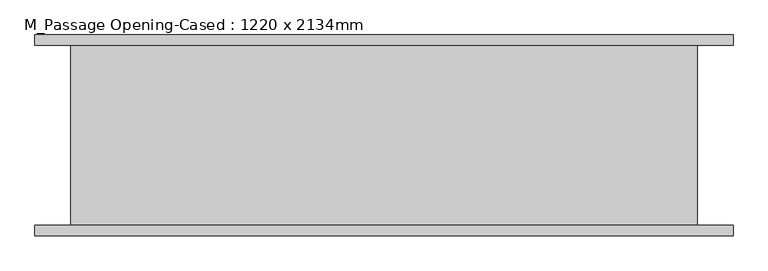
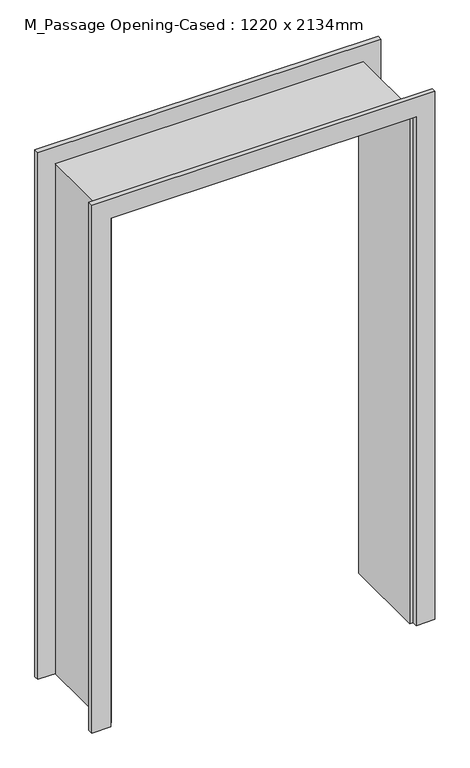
"""IFC4 building model written with IfcOpenShell, lengths in millimetres: proxy geometry, M_Passage Opening-Cased : 1220 x 2134mm."""

from ifc_helpers import new_model, si_unit, frame, origin, place, context, project, spatial, polyline, outline, extrude, faceted_brep, source, transform, mapped, element, save


def m_passage_opening_cased_1220_x_2134mm_b92f2863(model_context):
    return source(origin(), model_context, "Body", "SolidModel", [
        extrude(outline(polyline([(0.0, -611.8386567), (2127.65, -611.8386567), (2127.65, 595.4613433), (0.0, 595.4613433), (0.0, 670.4613433), (2202.65, 670.4613433), (2202.65, -686.8386567), (0.0, -686.8386567), (0.0, -611.8386567)])), frame((0.0, 175.0, 0.0), z_axis=(0.0, 1.0, 0.0), x_axis=(0.0, 0.0, 1.0)), (0.0, 0.0, 1.0), 20.0),
        extrude(outline(polyline([(0.0, 670.4613433), (2208.05, 670.4613433), (2208.05, -686.8386567), (0.0, -686.8386567), (0.0, -611.8386567), (2127.65, -611.8386567), (2127.65, 595.4613433), (0.0, 595.4613433), (0.0, 670.4613433)])), frame((0.0, -195.0, 0.0), z_axis=(0.0, 1.0, 0.0), x_axis=(0.0, 0.0, 1.0)), (0.0, 0.0, 1.0), 20.0),
        faceted_brep([(581.8113433, -175.0, 0.0), (581.8113433, 175.0, 0.0), (600.8613433, 175.0, 0.0), (600.8613433, -175.0, 0.0), (600.8613433, -175.0, 2133.05), (581.8113433, -175.0, 2114.0), (600.8613433, 175.0, 2133.05), (581.8113433, 175.0, 2114.0), (-617.2386567, -175.0, 2133.05), (-598.1886567, -175.0, 2114.0), (-617.2386567, 175.0, 2133.05), (-598.1886567, 175.0, 2114.0), (-598.1886567, -175.0, 0.0), (-617.2386567, -175.0, 0.0), (-617.2386567, 175.0, 0.0), (-598.1886567, 175.0, 0.0)], [[[0, 1, 2, 3]], [[3, 4, 5, 0]], [[2, 6, 4, 3]], [[1, 7, 6, 2]], [[0, 5, 7, 1]], [[4, 8, 9, 5]], [[6, 10, 8, 4]], [[7, 11, 10, 6]], [[5, 9, 11, 7]], [[12, 13, 14, 15]], [[8, 13, 12, 9]], [[10, 14, 13, 8]], [[11, 15, 14, 10]], [[9, 12, 15, 11]]]),
    ])


if __name__ == "__main__":
    model = new_model("IFC4")
    model_context = context("Model", 3, world=origin())
    ifc_project = project(units=[si_unit("LENGTHUNIT", "METRE", prefix="MILLI")], contexts=[model_context])
    site = spatial("IfcSite", under=ifc_project)
    building = spatial("IfcBuilding", under=site)
    placement = place(None, origin())
    m_passage_opening_cased_1220_x_2134mm_shape = m_passage_opening_cased_1220_x_2134mm_b92f2863(model_context)
    element("IfcBuildingElementProxy", 1, Name="M_Passage Opening-Cased : 1220 x 2134mm", ObjectType="M_Passage Opening-Cased : 1220 x 2134mm", at=placement, inside=building, context=model_context, shape_type="MappedRepresentation", body=[
        mapped(m_passage_opening_cased_1220_x_2134mm_shape, transform((0.0, 0.0, 0.0), x_axis=(1.0, 0.0, 0.0), y_axis=(0.0, 1.0, 0.0), z_axis=(0.0, 0.0, 1.0))),
    ])
    save(model, "model.ifc")
